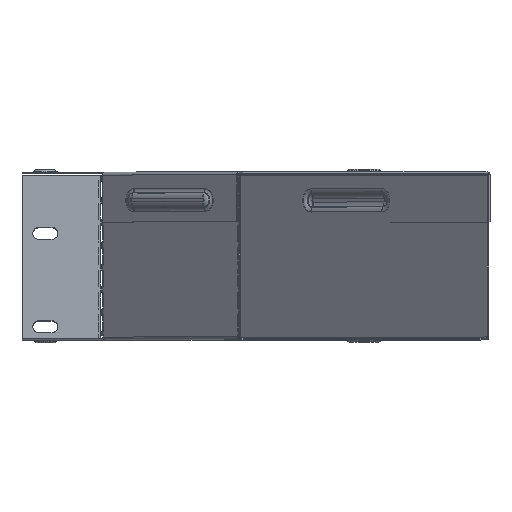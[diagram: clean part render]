
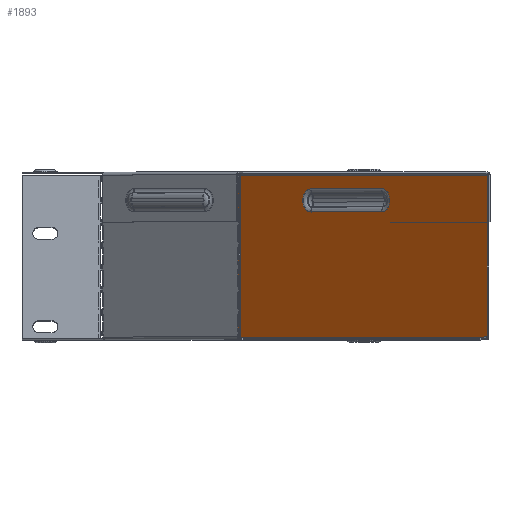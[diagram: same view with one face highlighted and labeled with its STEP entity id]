
A CAD part, top view. The second image highlights one B-rep face of the part: STEP entity #1893.
In plain terms, the highlighted planar face has unit normal (-0.707, 0, 0.707).
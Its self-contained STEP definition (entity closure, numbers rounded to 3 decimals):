
#101 = CARTESIAN_POINT ( 'NONE',  ( 75.648, 83.1, -33.221 ) ) ;
#452 = ORIENTED_EDGE ( 'NONE', *, *, #13132, .T. ) ;
#522 = VECTOR ( 'NONE', #6481, 1000. ) ;
#530 = AXIS2_PLACEMENT_3D ( 'NONE', #101, #1551, #6540 ) ;
#664 = VERTEX_POINT ( 'NONE', #2750 ) ;
#666 = VERTEX_POINT ( 'NONE', #16683 ) ;
#698 = DIRECTION ( 'NONE',  ( 0., 1., 0. ) ) ;
#1551 = DIRECTION ( 'NONE',  ( -0.707, 0., 0.707 ) ) ;
#1771 = CARTESIAN_POINT ( 'NONE',  ( 139.434, 98.2, 30.566 ) ) ;
#1893 = ADVANCED_FACE ( 'NONE', ( #19671, #2302 ), #2762, .T. ) ;
#2302 = FACE_OUTER_BOUND ( 'NONE', #2849, .T. ) ;
#2750 = CARTESIAN_POINT ( 'NONE',  ( 33.221, 76.183, -75.648 ) ) ;
#2762 = PLANE ( 'NONE',  #15820 ) ;
#2814 = DIRECTION ( 'NONE',  ( 0.707, 0., 0.707 ) ) ;
#2849 = EDGE_LOOP ( 'NONE', ( #17944, #452, #16978, #10952 ) ) ;
#3185 = CARTESIAN_POINT ( 'NONE',  ( -30.255, 0., -139.123 ) ) ;
#3259 = DIRECTION ( 'NONE',  ( 0., 1., 0. ) ) ;
#3782 = LINE ( 'NONE', #13600, #20639 ) ;
#3837 = EDGE_CURVE ( 'NONE', #17385, #664, #13484, .T. ) ;
#4253 = LINE ( 'NONE', #9053, #14791 ) ;
#4342 = EDGE_CURVE ( 'NONE', #10346, #666, #6199, .T. ) ;
#4438 = AXIS2_PLACEMENT_3D ( 'NONE', #20030, #15060, #698 ) ;
#5015 = VECTOR ( 'NONE', #14759, 1000. ) ;
#5149 = VERTEX_POINT ( 'NONE', #7594 ) ;
#5966 = DIRECTION ( 'NONE',  ( 0., 1., 0. ) ) ;
#6199 = CIRCLE ( 'NONE', #530, 6.917 ) ;
#6314 = VECTOR ( 'NONE', #3259, 1000. ) ;
#6481 = DIRECTION ( 'NONE',  ( 0.707, 0., 0.707 ) ) ;
#6540 = DIRECTION ( 'NONE',  ( 0., 1., 0. ) ) ;
#7594 = CARTESIAN_POINT ( 'NONE',  ( -30.255, 1., -139.123 ) ) ;
#7642 = CARTESIAN_POINT ( 'NONE',  ( 75.648, 76.183, -33.221 ) ) ;
#8497 = EDGE_LOOP ( 'NONE', ( #17659, #11157, #11500, #19609 ) ) ;
#8562 = LINE ( 'NONE', #3185, #6314 ) ;
#8616 = CARTESIAN_POINT ( 'NONE',  ( 139.123, 98.2, 30.255 ) ) ;
#9053 = CARTESIAN_POINT ( 'NONE',  ( 54.434, 76.183, -54.434 ) ) ;
#9246 = LINE ( 'NONE', #11482, #5015 ) ;
#9796 = EDGE_CURVE ( 'NONE', #5149, #17134, #8562, .T. ) ;
#10346 = VERTEX_POINT ( 'NONE', #7642 ) ;
#10952 = ORIENTED_EDGE ( 'NONE', *, *, #9796, .F. ) ;
#11018 = EDGE_CURVE ( 'NONE', #17134, #18878, #19401, .T. ) ;
#11157 = ORIENTED_EDGE ( 'NONE', *, *, #15115, .F. ) ;
#11482 = CARTESIAN_POINT ( 'NONE',  ( 54.434, 90.017, -54.434 ) ) ;
#11500 = ORIENTED_EDGE ( 'NONE', *, *, #4342, .F. ) ;
#11728 = DIRECTION ( 'NONE',  ( -0.707, 0., 0.707 ) ) ;
#12029 = DIRECTION ( 'NONE',  ( -0.707, 0., -0.707 ) ) ;
#12909 = VERTEX_POINT ( 'NONE', #18010 ) ;
#13132 = EDGE_CURVE ( 'NONE', #12909, #18878, #18383, .T. ) ;
#13484 = CIRCLE ( 'NONE', #4438, 6.917 ) ;
#13600 = CARTESIAN_POINT ( 'NONE',  ( 139.434, 1., 30.566 ) ) ;
#14034 = VECTOR ( 'NONE', #5966, 1000. ) ;
#14469 = CARTESIAN_POINT ( 'NONE',  ( 33.221, 90.017, -75.648 ) ) ;
#14759 = DIRECTION ( 'NONE',  ( -0.707, 0., -0.707 ) ) ;
#14791 = VECTOR ( 'NONE', #2814, 1000. ) ;
#15060 = DIRECTION ( 'NONE',  ( -0.707, 0., 0.707 ) ) ;
#15115 = EDGE_CURVE ( 'NONE', #666, #17385, #9246, .T. ) ;
#15365 = EDGE_CURVE ( 'NONE', #664, #10346, #4253, .T. ) ;
#15820 = AXIS2_PLACEMENT_3D ( 'NONE', #19189, #11728, #17293 ) ;
#16683 = CARTESIAN_POINT ( 'NONE',  ( 75.648, 90.017, -33.221 ) ) ;
#16978 = ORIENTED_EDGE ( 'NONE', *, *, #11018, .F. ) ;
#17134 = VERTEX_POINT ( 'NONE', #18977 ) ;
#17293 = DIRECTION ( 'NONE',  ( 0.707, 0., 0.707 ) ) ;
#17385 = VERTEX_POINT ( 'NONE', #14469 ) ;
#17659 = ORIENTED_EDGE ( 'NONE', *, *, #3837, .F. ) ;
#17944 = ORIENTED_EDGE ( 'NONE', *, *, #18879, .F. ) ;
#18010 = CARTESIAN_POINT ( 'NONE',  ( 139.123, 1., 30.255 ) ) ;
#18383 = LINE ( 'NONE', #20130, #14034 ) ;
#18878 = VERTEX_POINT ( 'NONE', #8616 ) ;
#18879 = EDGE_CURVE ( 'NONE', #12909, #5149, #3782, .T. ) ;
#18977 = CARTESIAN_POINT ( 'NONE',  ( -30.255, 98.2, -139.123 ) ) ;
#19189 = CARTESIAN_POINT ( 'NONE',  ( 54.434, 0., -54.434 ) ) ;
#19401 = LINE ( 'NONE', #1771, #522 ) ;
#19609 = ORIENTED_EDGE ( 'NONE', *, *, #15365, .F. ) ;
#19671 = FACE_BOUND ( 'NONE', #8497, .T. ) ;
#20030 = CARTESIAN_POINT ( 'NONE',  ( 33.221, 83.1, -75.648 ) ) ;
#20130 = CARTESIAN_POINT ( 'NONE',  ( 139.123, 0., 30.255 ) ) ;
#20639 = VECTOR ( 'NONE', #12029, 1000. ) ;
